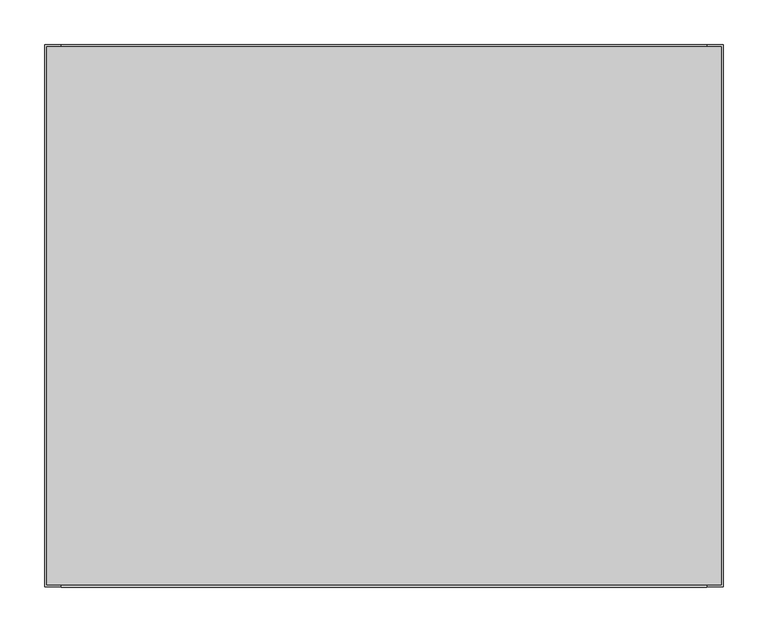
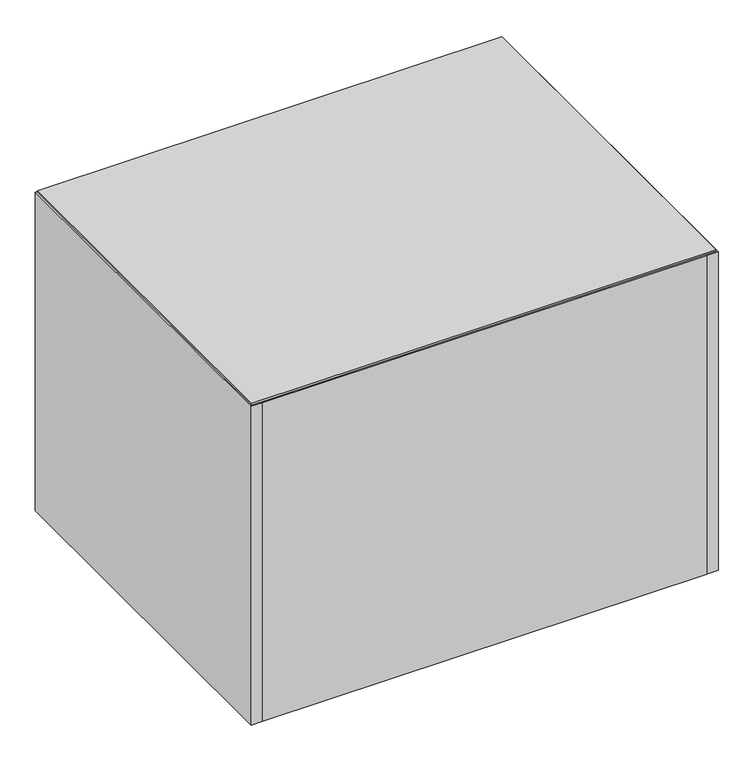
"""IFC4 building model written with IfcOpenShell, lengths in millimetres: furniture geometry, Geiger_GeigerOneCasegoods_LowStorageOpen : TFL 30Wx 24Dx21.75H."""

from ifc_helpers import new_model, si_unit, point, frame, origin, place, context, project, spatial, polyline, circle_curve, ellipse_curve, trimmed, outline, extrude, source, transform, mapped, element, save
from ifc_brep_helpers import plane_surface, cylinder_surface, revolved_surface, advanced_brep


def furniture_763bb235(model_context):
    return source(origin(), model_context, "Body", "SolidModel", [
        extrude(outline(polyline([(19.0, 19.5), (19.0, 590.1), (743.0, 590.1), (743.0, 19.5), (19.0, 19.5)])), frame((0.0, 0.0, 12.7), z_axis=(0.0, 0.0, 1.0), x_axis=(1.0, 0.0, 0.0)), (0.0, 0.0, 1.0), 19.5),
        extrude(outline(polyline([(759.46, 2.54), (2.54, 2.54), (2.54, 607.06), (759.46, 607.06), (759.46, 2.54)])), frame((0.0, 0.0, 561.7), z_axis=(0.0, 0.0, 1.0), x_axis=(1.0, 0.0, 0.0)), (0.0, 0.0, 1.0), 3.2766),
        extrude(outline(polyline([(19.0, 248.1), (19.0, 609.1), (743.0, 609.1), (743.0, 248.1), (19.0, 248.1)])), frame((0.0, 0.0, 542.2), z_axis=(0.0, 0.0, 1.0), x_axis=(1.0, 0.0, 0.0)), (0.0, 0.0, 1.0), 19.5),
        extrude(outline(polyline([(19.0, 95.5), (19.0, 114.5), (743.0, 114.5), (743.0, 95.5), (19.0, 95.5)])), frame((0.0, 0.0, 73.2), z_axis=(0.0, 0.0, 1.0), x_axis=(1.0, 0.0, 0.0)), (0.0, 0.0, 1.0), 437.0),
        extrude(outline(polyline([(19.0, 114.5), (19.0, 609.1), (743.0, 609.1), (743.0, 114.5), (19.0, 114.5)])), frame((0.0, 0.0, 323.7992), z_axis=(0.0, 0.0, 1.0), x_axis=(1.0, 0.0, 0.0)), (0.0, 0.0, 1.0), 26.0008),
        extrude(outline(polyline([(19.0, 114.5), (19.0, 609.1), (743.0, 609.1), (743.0, 114.5), (19.0, 114.5)])), frame((0.0, 0.0, 73.2), z_axis=(0.0, 0.0, 1.0), x_axis=(1.0, 0.0, 0.0)), (0.0, 0.0, 1.0), 19.5),
        extrude(outline(polyline([(743.0, 19.5), (743.0, 0.0), (19.0, 0.0), (19.0, 19.5), (743.0, 19.5)])), frame((0.0, 0.0, 12.7), z_axis=(0.0, 0.0, 1.0), x_axis=(1.0, 0.0, 0.0)), (0.0, 0.0, 1.0), 549.0),
        extrude(outline(polyline([(19.0, 590.1), (19.0, 609.6), (743.0, 609.6), (743.0, 590.1), (19.0, 590.1)])), frame((0.0, 0.0, 12.7), z_axis=(0.0, 0.0, 1.0), x_axis=(1.0, 0.0, 0.0)), (0.0, 0.0, 1.0), 60.5),
        extrude(outline(polyline([(19.0, 609.6), (19.0, 0.5), (0.0, 0.5), (0.0, 609.6), (19.0, 609.6)])), frame((0.0, 0.0, 12.7), z_axis=(0.0, 0.0, 1.0), x_axis=(1.0, 0.0, 0.0)), (0.0, 0.0, 1.0), 549.0),
        extrude(outline(polyline([(762.0, 609.6), (762.0, 0.5), (743.0, 0.5), (743.0, 609.6), (762.0, 609.6)])), frame((0.0, 0.0, 12.7), z_axis=(0.0, 0.0, 1.0), x_axis=(1.0, 0.0, 0.0)), (0.0, 0.0, 1.0), 549.0),
        advanced_brep(
        [(94.0575663, 552.1, 0.0), (83.0, 552.1, 0.0), (71.9424337, 552.1, 0.0), (71.9424337, 552.1, 9.5), (94.0575663, 552.1, 9.5), (78.933545, 552.1, 9.5), (87.066455, 552.1, 9.5), (78.933545, 552.1, 12.7), (87.066455, 552.1, 12.7), (83.0, 552.1, 12.7)],
        [
            (0, 1),
            (1, 2),
            (2, 0, circle_curve(frame((83.0, 552.1, 0.0), z_axis=(0.0, 0.0, -1.0), x_axis=(-1.0, 0.0, 0.0)), 11.0575663)),
            (0, 2, circle_curve(frame((83.0, 552.1, 0.0), z_axis=(0.0, 0.0, -1.0), x_axis=(-1.0, 0.0, 0.0)), 11.0575663)),
            (2, 3, circle_curve(frame((71.9424337, 552.1, 4.75), z_axis=(0.0, 1.0, 0.0), x_axis=(-1.0, 0.0, 0.0)), 4.75)),
            (3, 4, circle_curve(frame((83.0, 552.1, 9.5), z_axis=(0.0, 0.0, -1.0), x_axis=(-1.0, 0.0, 0.0)), 11.0575663)),
            (4, 0, circle_curve(frame((94.0575663, 552.1, 4.75), z_axis=(0.0, 1.0, 0.0), x_axis=(1.0, 0.0, 0.0)), 4.75)),
            (4, 3, circle_curve(frame((83.0, 552.1, 9.5), z_axis=(0.0, 0.0, -1.0), x_axis=(-1.0, 0.0, 0.0)), 11.0575663)),
            (3, 5),
            (5, 6, circle_curve(frame((83.0, 552.1, 9.5), z_axis=(0.0, 0.0, -1.0), x_axis=(-1.0, 0.0, 0.0)), 4.066455)),
            (6, 4),
            (6, 5, circle_curve(frame((83.0, 552.1, 9.5), z_axis=(0.0, 0.0, -1.0), x_axis=(-1.0, 0.0, 0.0)), 4.066455)),
            (5, 7),
            (7, 8, circle_curve(frame((83.0, 552.1, 12.7), z_axis=(0.0, 0.0, -1.0), x_axis=(-1.0, 0.0, 0.0)), 4.066455)),
            (8, 6),
            (8, 7, circle_curve(frame((83.0, 552.1, 12.7), z_axis=(0.0, 0.0, -1.0), x_axis=(-1.0, 0.0, 0.0)), 4.066455)),
            (7, 9),
            (9, 8),
        ],
        [
            plane_surface(frame((83.0, 552.1, 0.0), z_axis=(0.0, 0.0, -1.0), x_axis=(-1.0, 0.0, 0.0))),
            revolved_surface(trimmed(ellipse_curve(frame((71.9424337, 552.1, 4.75), z_axis=(0.0, 1.0, 0.0), x_axis=(-1.0, 0.0, 0.0)), 4.75, 4.75), [point((71.9424337, 552.1, 0.0))], [point((71.9424337, 552.1, 9.5))], True, "CARTESIAN"), (83.0, 552.1, 0.0), (0.0, 0.0, 1.0)),
            plane_surface(frame((83.0, 552.1, 9.5), z_axis=(0.0, 0.0, 1.0), x_axis=(-1.0, 0.0, 0.0))),
            cylinder_surface(frame((83.0, 552.1, 0.0), z_axis=(0.0, 0.0, 1.0), x_axis=(-1.0, 0.0, 0.0)), 4.066455),
            plane_surface(frame((83.0, 552.1, 12.7), z_axis=(0.0, 0.0, 1.0), x_axis=(-1.0, 0.0, 0.0))),
        ],
        [
            (0, [[1, 2, 3]]),
            (0, [[-1, 4, -2]]),
            (1, [[5, 6, 7, -3]]),
            (1, [[-7, 8, -5, -4]]),
            (2, [[9, 10, 11, -6]]),
            (2, [[-11, 12, -9, -8]]),
            (3, [[13, 14, 15, -10]]),
            (3, [[-15, 16, -13, -12]]),
            (4, [[17, 18, -14]]),
            (4, [[-18, -17, -16]]),
        ],
    ),
        advanced_brep(
        [(94.0575663, 127.0, 0.0), (83.0, 127.0, 0.0), (71.9424337, 127.0, 0.0), (71.9424337, 127.0, 9.5), (94.0575663, 127.0, 9.5), (78.933545, 127.0, 9.5), (87.066455, 127.0, 9.5), (78.933545, 127.0, 12.7), (87.066455, 127.0, 12.7), (83.0, 127.0, 12.7)],
        [
            (0, 1),
            (1, 2),
            (2, 0, circle_curve(frame((83.0, 127.0, 0.0), z_axis=(0.0, 0.0, -1.0), x_axis=(-1.0, 0.0, 0.0)), 11.0575663)),
            (0, 2, circle_curve(frame((83.0, 127.0, 0.0), z_axis=(0.0, 0.0, -1.0), x_axis=(-1.0, 0.0, 0.0)), 11.0575663)),
            (2, 3, circle_curve(frame((71.9424337, 127.0, 4.75), z_axis=(0.0, 1.0, 0.0), x_axis=(-1.0, 0.0, 0.0)), 4.75)),
            (3, 4, circle_curve(frame((83.0, 127.0, 9.5), z_axis=(0.0, 0.0, -1.0), x_axis=(-1.0, 0.0, 0.0)), 11.0575663)),
            (4, 0, circle_curve(frame((94.0575663, 127.0, 4.75), z_axis=(0.0, 1.0, 0.0), x_axis=(1.0, 0.0, 0.0)), 4.75)),
            (4, 3, circle_curve(frame((83.0, 127.0, 9.5), z_axis=(0.0, 0.0, -1.0), x_axis=(-1.0, 0.0, 0.0)), 11.0575663)),
            (3, 5),
            (5, 6, circle_curve(frame((83.0, 127.0, 9.5), z_axis=(0.0, 0.0, -1.0), x_axis=(-1.0, 0.0, 0.0)), 4.066455)),
            (6, 4),
            (6, 5, circle_curve(frame((83.0, 127.0, 9.5), z_axis=(0.0, 0.0, -1.0), x_axis=(-1.0, 0.0, 0.0)), 4.066455)),
            (5, 7),
            (7, 8, circle_curve(frame((83.0, 127.0, 12.7), z_axis=(0.0, 0.0, -1.0), x_axis=(-1.0, 0.0, 0.0)), 4.066455)),
            (8, 6),
            (8, 7, circle_curve(frame((83.0, 127.0, 12.7), z_axis=(0.0, 0.0, -1.0), x_axis=(-1.0, 0.0, 0.0)), 4.066455)),
            (7, 9),
            (9, 8),
        ],
        [
            plane_surface(frame((83.0, 127.0, 0.0), z_axis=(0.0, 0.0, -1.0), x_axis=(-1.0, 0.0, 0.0))),
            revolved_surface(trimmed(ellipse_curve(frame((71.9424337, 127.0, 4.75), z_axis=(0.0, 1.0, 0.0), x_axis=(-1.0, 0.0, 0.0)), 4.75, 4.75), [point((71.9424337, 127.0, 0.0))], [point((71.9424337, 127.0, 9.5))], True, "CARTESIAN"), (83.0, 127.0, 0.0), (0.0, 0.0, 1.0)),
            plane_surface(frame((83.0, 127.0, 9.5), z_axis=(0.0, 0.0, 1.0), x_axis=(-1.0, 0.0, 0.0))),
            cylinder_surface(frame((83.0, 127.0, 0.0), z_axis=(0.0, 0.0, 1.0), x_axis=(-1.0, 0.0, 0.0)), 4.066455),
            plane_surface(frame((83.0, 127.0, 12.7), z_axis=(0.0, 0.0, 1.0), x_axis=(-1.0, 0.0, 0.0))),
        ],
        [
            (0, [[1, 2, 3]]),
            (0, [[-1, 4, -2]]),
            (1, [[5, 6, 7, -3]]),
            (1, [[-7, 8, -5, -4]]),
            (2, [[9, 10, 11, -6]]),
            (2, [[-11, 12, -9, -8]]),
            (3, [[13, 14, 15, -10]]),
            (3, [[-15, 16, -13, -12]]),
            (4, [[17, 18, -14]]),
            (4, [[-18, -17, -16]]),
        ],
    ),
        advanced_brep(
        [(679.0, 552.1, 0.0), (667.9424337, 552.1, 0.0), (690.0575663, 552.1, 0.0), (667.9424337, 552.1, 9.5), (690.0575663, 552.1, 9.5), (674.933545, 552.1, 9.5), (683.066455, 552.1, 9.5), (674.933545, 552.1, 12.7), (683.066455, 552.1, 12.7), (679.0, 552.1, 12.7)],
        [
            (0, 1),
            (1, 2, circle_curve(frame((679.0, 552.1, 0.0), z_axis=(0.0, 0.0, -1.0), x_axis=(1.0, 0.0, 0.0)), 11.0575663)),
            (2, 0),
            (2, 1, circle_curve(frame((679.0, 552.1, 0.0), z_axis=(0.0, 0.0, -1.0), x_axis=(1.0, 0.0, 0.0)), 11.0575663)),
            (1, 3, circle_curve(frame((667.9424337, 552.1, 4.75), z_axis=(0.0, 1.0, 0.0), x_axis=(1.0, 0.0, 0.0)), 4.75)),
            (3, 4, circle_curve(frame((679.0, 552.1, 9.5), z_axis=(0.0, 0.0, -1.0), x_axis=(1.0, 0.0, 0.0)), 11.0575663)),
            (4, 2, circle_curve(frame((690.0575663, 552.1, 4.75), z_axis=(0.0, 1.0, 0.0), x_axis=(-1.0, 0.0, 0.0)), 4.75)),
            (4, 3, circle_curve(frame((679.0, 552.1, 9.5), z_axis=(0.0, 0.0, -1.0), x_axis=(1.0, 0.0, 0.0)), 11.0575663)),
            (3, 5),
            (5, 6, circle_curve(frame((679.0, 552.1, 9.5), z_axis=(0.0, 0.0, -1.0), x_axis=(1.0, 0.0, 0.0)), 4.066455)),
            (6, 4),
            (6, 5, circle_curve(frame((679.0, 552.1, 9.5), z_axis=(0.0, 0.0, -1.0), x_axis=(1.0, 0.0, 0.0)), 4.066455)),
            (5, 7),
            (7, 8, circle_curve(frame((679.0, 552.1, 12.7), z_axis=(0.0, 0.0, -1.0), x_axis=(1.0, 0.0, 0.0)), 4.066455)),
            (8, 6),
            (8, 7, circle_curve(frame((679.0, 552.1, 12.7), z_axis=(0.0, 0.0, -1.0), x_axis=(1.0, 0.0, 0.0)), 4.066455)),
            (7, 9),
            (9, 8),
        ],
        [
            plane_surface(frame((679.0, 552.1, 0.0), z_axis=(0.0, 0.0, -1.0), x_axis=(1.0, 0.0, 0.0))),
            revolved_surface(trimmed(ellipse_curve(frame((690.0575663, 552.1, 4.75), z_axis=(0.0, 1.0, 0.0), x_axis=(-1.0, 0.0, 0.0)), 4.75, 4.75), [point((690.0575663, 552.1, 9.5))], [point((690.0575663, 552.1, 0.0))], True, "CARTESIAN"), (679.0, 552.1, 0.0), (0.0, 0.0, -1.0)),
            plane_surface(frame((679.0, 552.1, 9.5), z_axis=(0.0, 0.0, 1.0), x_axis=(1.0, 0.0, 0.0))),
            cylinder_surface(frame((679.0, 552.1, 0.0), z_axis=(0.0, 0.0, -1.0), x_axis=(1.0, 0.0, 0.0)), 4.066455),
            plane_surface(frame((679.0, 552.1, 12.7), z_axis=(0.0, 0.0, 1.0), x_axis=(1.0, 0.0, 0.0))),
        ],
        [
            (0, [[1, 2, 3]]),
            (0, [[4, -1, -3]]),
            (1, [[5, 6, 7, -2]]),
            (1, [[-7, 8, -5, -4]]),
            (2, [[9, 10, 11, -6]]),
            (2, [[-11, 12, -9, -8]]),
            (3, [[13, 14, 15, -10]]),
            (3, [[-15, 16, -13, -12]]),
            (4, [[17, 18, -14]]),
            (4, [[-18, -17, -16]]),
        ],
    ),
        advanced_brep(
        [(679.0, 127.0, 0.0), (667.9424337, 127.0, 0.0), (690.0575663, 127.0, 0.0), (667.9424337, 127.0, 9.5), (690.0575663, 127.0, 9.5), (674.933545, 127.0, 9.5), (683.066455, 127.0, 9.5), (674.933545, 127.0, 12.7), (683.066455, 127.0, 12.7), (679.0, 127.0, 12.7)],
        [
            (0, 1),
            (1, 2, circle_curve(frame((679.0, 127.0, 0.0), z_axis=(0.0, 0.0, -1.0), x_axis=(1.0, 0.0, 0.0)), 11.0575663)),
            (2, 0),
            (2, 1, circle_curve(frame((679.0, 127.0, 0.0), z_axis=(0.0, 0.0, -1.0), x_axis=(1.0, 0.0, 0.0)), 11.0575663)),
            (1, 3, circle_curve(frame((667.9424337, 127.0, 4.75), z_axis=(0.0, 1.0, 0.0), x_axis=(1.0, 0.0, 0.0)), 4.75)),
            (3, 4, circle_curve(frame((679.0, 127.0, 9.5), z_axis=(0.0, 0.0, -1.0), x_axis=(1.0, 0.0, 0.0)), 11.0575663)),
            (4, 2, circle_curve(frame((690.0575663, 127.0, 4.75), z_axis=(0.0, 1.0, 0.0), x_axis=(-1.0, 0.0, 0.0)), 4.75)),
            (4, 3, circle_curve(frame((679.0, 127.0, 9.5), z_axis=(0.0, 0.0, -1.0), x_axis=(1.0, 0.0, 0.0)), 11.0575663)),
            (3, 5),
            (5, 6, circle_curve(frame((679.0, 127.0, 9.5), z_axis=(0.0, 0.0, -1.0), x_axis=(1.0, 0.0, 0.0)), 4.066455)),
            (6, 4),
            (6, 5, circle_curve(frame((679.0, 127.0, 9.5), z_axis=(0.0, 0.0, -1.0), x_axis=(1.0, 0.0, 0.0)), 4.066455)),
            (5, 7),
            (7, 8, circle_curve(frame((679.0, 127.0, 12.7), z_axis=(0.0, 0.0, -1.0), x_axis=(1.0, 0.0, 0.0)), 4.066455)),
            (8, 6),
            (8, 7, circle_curve(frame((679.0, 127.0, 12.7), z_axis=(0.0, 0.0, -1.0), x_axis=(1.0, 0.0, 0.0)), 4.066455)),
            (7, 9),
            (9, 8),
        ],
        [
            plane_surface(frame((679.0, 127.0, 0.0), z_axis=(0.0, 0.0, -1.0), x_axis=(1.0, 0.0, 0.0))),
            revolved_surface(trimmed(ellipse_curve(frame((690.0575663, 127.0, 4.75), z_axis=(0.0, 1.0, 0.0), x_axis=(-1.0, 0.0, 0.0)), 4.75, 4.75), [point((690.0575663, 127.0, 9.5))], [point((690.0575663, 127.0, 0.0))], True, "CARTESIAN"), (679.0, 127.0, 0.0), (0.0, 0.0, -1.0)),
            plane_surface(frame((679.0, 127.0, 9.5), z_axis=(0.0, 0.0, 1.0), x_axis=(1.0, 0.0, 0.0))),
            cylinder_surface(frame((679.0, 127.0, 0.0), z_axis=(0.0, 0.0, -1.0), x_axis=(1.0, 0.0, 0.0)), 4.066455),
            plane_surface(frame((679.0, 127.0, 12.7), z_axis=(0.0, 0.0, 1.0), x_axis=(1.0, 0.0, 0.0))),
        ],
        [
            (0, [[1, 2, 3]]),
            (0, [[4, -1, -3]]),
            (1, [[5, 6, 7, -2]]),
            (1, [[-7, 8, -5, -4]]),
            (2, [[9, 10, 11, -6]]),
            (2, [[-11, 12, -9, -8]]),
            (3, [[13, 14, 15, -10]]),
            (3, [[-15, 16, -13, -12]]),
            (4, [[17, 18, -14]]),
            (4, [[-18, -17, -16]]),
        ],
    ),
    ])


if __name__ == "__main__":
    model = new_model("IFC4")
    model_context = context("Model", 3, world=origin())
    ifc_project = project(units=[si_unit("LENGTHUNIT", "METRE", prefix="MILLI")], contexts=[model_context])
    site = spatial("IfcSite", under=ifc_project)
    building = spatial("IfcBuilding", under=site)
    placement = place(None, origin())
    furniture_shape = furniture_763bb235(model_context)
    element("IfcFurniture", 1, ObjectType="Geiger_GeigerOneCasegoods_LowStorageOpen : TFL 30Wx 24Dx21.75H", at=placement, inside=building, context=model_context, shape_type="MappedRepresentation", body=[
        mapped(furniture_shape, transform((0.0, 0.0, 0.0), x_axis=(1.0, 0.0, 0.0), y_axis=(0.0, 1.0, 0.0), z_axis=(0.0, 0.0, 1.0))),
    ])
    save(model, "model.ifc")
